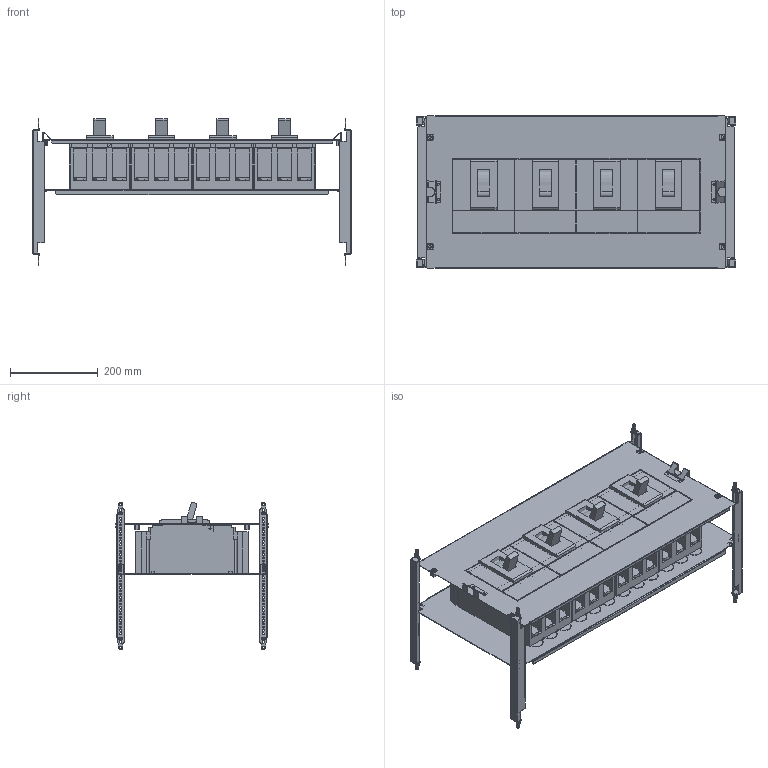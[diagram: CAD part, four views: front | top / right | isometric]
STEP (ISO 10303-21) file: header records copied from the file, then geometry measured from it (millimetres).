
FILE_DESCRIPTION(('CAx-IF Rec.Pracs.---Model Styling and Organization---1.2---2011-12-15','CAx-IF Rec.Pracs.---Geometric and Assembly Validation Properties---4.1---2014-06-16','CAx-IF Rec.Pracs.---PMI Polyline Presentation---2.0---2013-05-24'),'2;1');
FILE_NAME('R5PKIB7V83016 (F).stp','2021-07-29T03:22:49+03:00',(''),(''),'STEP Interface 4.4 by CT CoreTechnologie','3D_Evolution4.4 by CT CoreTechnologie','');
FILE_SCHEMA(('AUTOMOTIVE_DESIGN { 1 0 10303 214 1 1 1 1 }'));
Length unit declared in the file: millimetre
Products named in the file (1): R5PKIB7V83016 (F)
Bounding box: 726 x 348 x 335 mm (x, y, z)
Surface area: 2089017.5 mm2 (no closed solid volume)
Topology: 0 solids, 83 shells, 3092 faces, 8750 edges, 5864 vertices
Faces by surface type: plane 2098, cylinder 798, bspline 196
Entity records: 102030 total; most frequent: CARTESIAN_POINT 19903, ORIENTED_EDGE 17324, DIRECTION 16398, EDGE_CURVE 8686, VECTOR 6688, LINE 6688, VERTEX_POINT 5872, AXIS2_PLACEMENT_3D 4855
